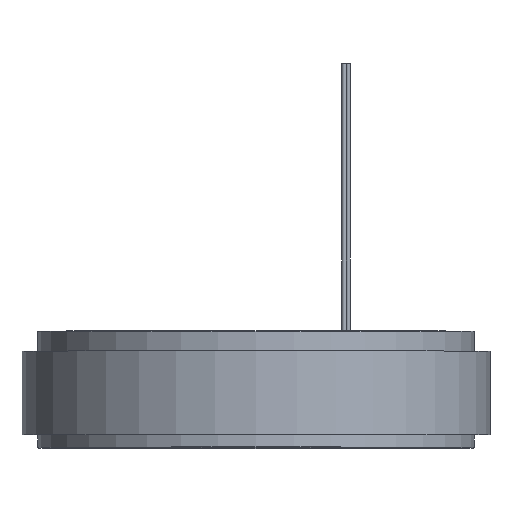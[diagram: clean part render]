
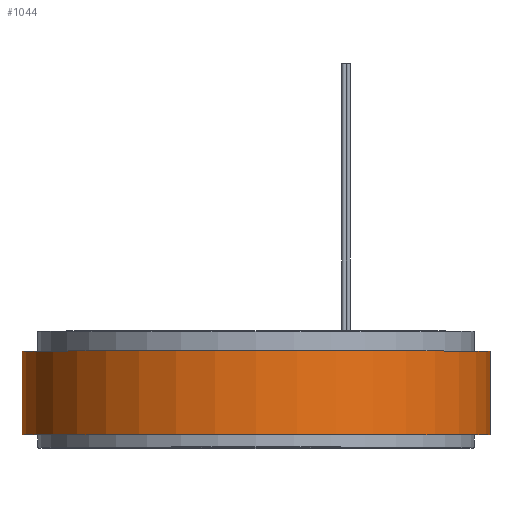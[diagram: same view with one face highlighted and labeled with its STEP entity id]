
A CAD part, top view. The second image highlights one B-rep face of the part: STEP entity #1044.
In plain terms, the highlighted cylindrical face has radius 140 mm (diameter 280 mm), a full revolution.
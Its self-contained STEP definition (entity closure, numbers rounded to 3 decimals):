
#1044=ADVANCED_FACE('',(#2190,#2192),#2194,.T.);
#2190=FACE_OUTER_BOUND('',#2191,.T.);
#2191=EDGE_LOOP('',(#2649));
#2192=FACE_OUTER_BOUND('',#2193,.T.);
#2193=EDGE_LOOP('',(#2650));
#2194=CYLINDRICAL_SURFACE('',#2195,140.);
#2195=AXIS2_PLACEMENT_3D('',#2196,#2197,#2198);
#2196=CARTESIAN_POINT('',(-8.,0.,0.));
#2197=DIRECTION('',(-1.,0.,0.));
#2198=DIRECTION('',(0.,0.,1.));
#2649=ORIENTED_EDGE('',*,*,#2781,.T.);
#2650=ORIENTED_EDGE('',*,*,#2795,.F.);
#2781=EDGE_CURVE('',#2992,#2992,#2993,.T.);
#2795=EDGE_CURVE('',#3020,#3020,#3021,.T.);
#2992=VERTEX_POINT('',#3494);
#2993=CIRCLE('',#3495,140.);
#3020=VERTEX_POINT('',#3564);
#3021=CIRCLE('',#3565,140.);
#3494=CARTESIAN_POINT('',(-8.,0.,140.));
#3495=AXIS2_PLACEMENT_3D('',#3496,#3497,#3498);
#3496=CARTESIAN_POINT('',(-8.,0.,0.));
#3497=DIRECTION('',(-1.,0.,0.));
#3498=DIRECTION('',(0.,0.,1.));
#3564=CARTESIAN_POINT('',(-58.,0.,140.));
#3565=AXIS2_PLACEMENT_3D('',#3566,#3567,#3568);
#3566=CARTESIAN_POINT('',(-58.,0.,0.));
#3567=DIRECTION('',(-1.,0.,0.));
#3568=DIRECTION('',(0.,0.,1.));
